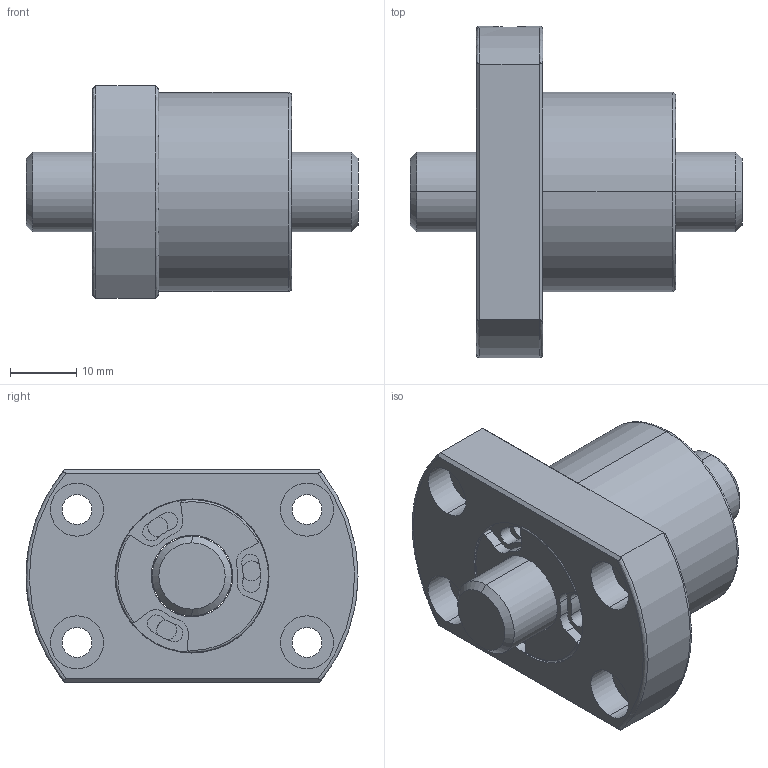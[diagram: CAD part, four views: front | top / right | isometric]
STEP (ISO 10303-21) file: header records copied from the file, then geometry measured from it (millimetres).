
FILE_DESCRIPTION (( 'STEP AP203' ), '1' );
FILE_NAME ('SFVSR01205B1D-C.STEP', '2020-06-17T03:54:44', ( '' ), ( '' ), 'SwSTEP 2.0', 'SolidWorks 2013', '' );
FILE_SCHEMA (( 'CONFIG_CONTROL_DESIGN' ));
Length unit declared in the file: millimetre
Products named in the file (1): SFVSR01205B1D-C
Bounding box: 50 x 50 x 32 mm (x, y, z)
Volume: 28087.2 mm3; surface area: 11923.8 mm2
Topology: 2 solids, 2 shells, 216 faces, 542 edges, 348 vertices
Faces by surface type: cylinder 126, plane 74, bspline 12, cone 4
Entity records: 7238 total; most frequent: CARTESIAN_POINT 1804, DIRECTION 1224, ORIENTED_EDGE 1084, EDGE_CURVE 542, AXIS2_PLACEMENT_3D 519, VERTEX_POINT 348, CIRCLE 314, EDGE_LOOP 248
